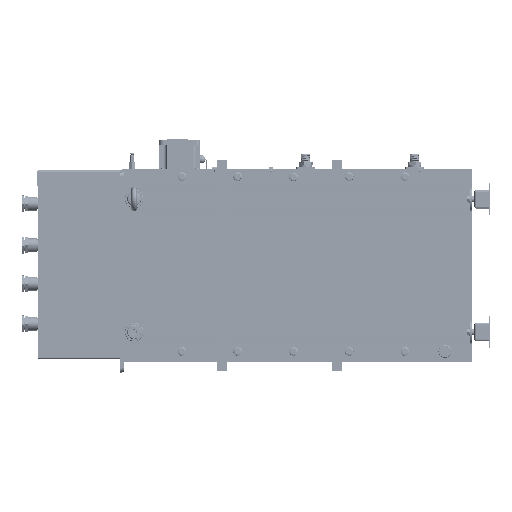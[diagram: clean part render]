
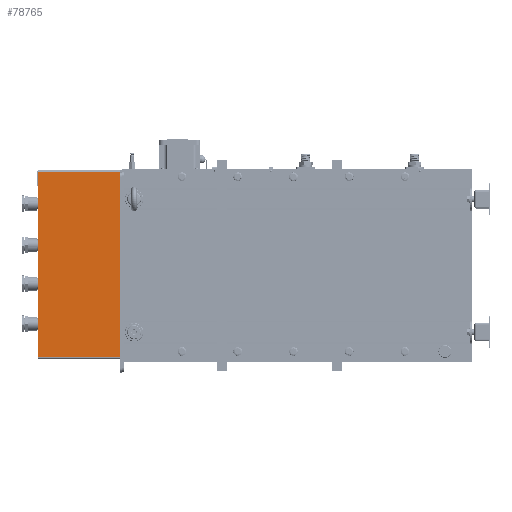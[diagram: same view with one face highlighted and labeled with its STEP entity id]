
A CAD part, left-side view. The second image highlights one B-rep face of the part: STEP entity #78765.
In plain terms, the highlighted planar face has unit normal (-1, 0, 0) as drawn and (1, 0, 0) by its records, which use the part's own axes.
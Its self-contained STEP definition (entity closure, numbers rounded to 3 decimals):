
#19467 = EDGE_CURVE ( 'NONE', #222767, #288671, #205485, .T. ) ;
#22876 = ORIENTED_EDGE ( 'NONE', *, *, #140489, .T. ) ;
#27401 = PLANE ( 'NONE',  #293782 ) ;
#28985 = EDGE_LOOP ( 'NONE', ( #229317, #22876, #217608, #185895, #185585 ) ) ;
#43035 = LINE ( 'NONE', #65880, #250503 ) ;
#44149 = DIRECTION ( 'NONE',  ( 0., -1., 0. ) ) ;
#48080 = CARTESIAN_POINT ( 'NONE',  ( 328.397, 4., -393.565 ) ) ;
#61974 = CARTESIAN_POINT ( 'NONE',  ( 328.397, 184., -395.173 ) ) ;
#65880 = CARTESIAN_POINT ( 'NONE',  ( 328.397, 4., -393.565 ) ) ;
#73360 = VECTOR ( 'NONE', #215446, 1000. ) ;
#78765 = ADVANCED_FACE ( 'NONE', ( #187229 ), #27401, .F. ) ;
#80455 = VERTEX_POINT ( 'NONE', #297481 ) ;
#81494 = EDGE_CURVE ( 'NONE', #188571, #222767, #246403, .T. ) ;
#96785 = LINE ( 'NONE', #48080, #73360 ) ;
#99504 = VERTEX_POINT ( 'NONE', #268572 ) ;
#120676 = CARTESIAN_POINT ( 'NONE',  ( 328.397, 4., -395.173 ) ) ;
#125037 = EDGE_CURVE ( 'NONE', #188571, #99504, #249801, .T. ) ;
#130778 = DIRECTION ( 'NONE',  ( 0., 0., -1. ) ) ;
#140489 = EDGE_CURVE ( 'NONE', #99504, #80455, #96785, .T. ) ;
#144580 = DIRECTION ( 'NONE',  ( 0., 0., 1. ) ) ;
#148029 = VECTOR ( 'NONE', #157016, 1000. ) ;
#157016 = DIRECTION ( 'NONE',  ( 0., -1., 0. ) ) ;
#185585 = ORIENTED_EDGE ( 'NONE', *, *, #81494, .F. ) ;
#185895 = ORIENTED_EDGE ( 'NONE', *, *, #19467, .F. ) ;
#187229 = FACE_OUTER_BOUND ( 'NONE', #28985, .T. ) ;
#188571 = VERTEX_POINT ( 'NONE', #238360 ) ;
#191047 = VECTOR ( 'NONE', #44149, 1000. ) ;
#205485 = LINE ( 'NONE', #252613, #191047 ) ;
#215446 = DIRECTION ( 'NONE',  ( 0., 0., -1. ) ) ;
#217608 = ORIENTED_EDGE ( 'NONE', *, *, #279190, .T. ) ;
#222767 = VERTEX_POINT ( 'NONE', #61974 ) ;
#229317 = ORIENTED_EDGE ( 'NONE', *, *, #125037, .T. ) ;
#238360 = CARTESIAN_POINT ( 'NONE',  ( 328.397, 184., 7.97 ) ) ;
#246403 = LINE ( 'NONE', #272170, #270308 ) ;
#246841 = CARTESIAN_POINT ( 'NONE',  ( 328.397, 184., 7.97 ) ) ;
#249801 = LINE ( 'NONE', #246841, #148029 ) ;
#250503 = VECTOR ( 'NONE', #275827, 1000. ) ;
#252613 = CARTESIAN_POINT ( 'NONE',  ( 328.397, 184., -395.173 ) ) ;
#257163 = DIRECTION ( 'NONE',  ( -1., 0., 0. ) ) ;
#268572 = CARTESIAN_POINT ( 'NONE',  ( 328.397, 4., 7.97 ) ) ;
#270308 = VECTOR ( 'NONE', #130778, 1000. ) ;
#272170 = CARTESIAN_POINT ( 'NONE',  ( 328.397, 184., 7.97 ) ) ;
#275827 = DIRECTION ( 'NONE',  ( 0., 0., -1. ) ) ;
#279190 = EDGE_CURVE ( 'NONE', #80455, #288671, #43035, .T. ) ;
#281509 = CARTESIAN_POINT ( 'NONE',  ( 328.397, 184., -393.565 ) ) ;
#288671 = VERTEX_POINT ( 'NONE', #120676 ) ;
#293782 = AXIS2_PLACEMENT_3D ( 'NONE', #281509, #257163, #144580 ) ;
#297481 = CARTESIAN_POINT ( 'NONE',  ( 328.397, 4., -394.673 ) ) ;
